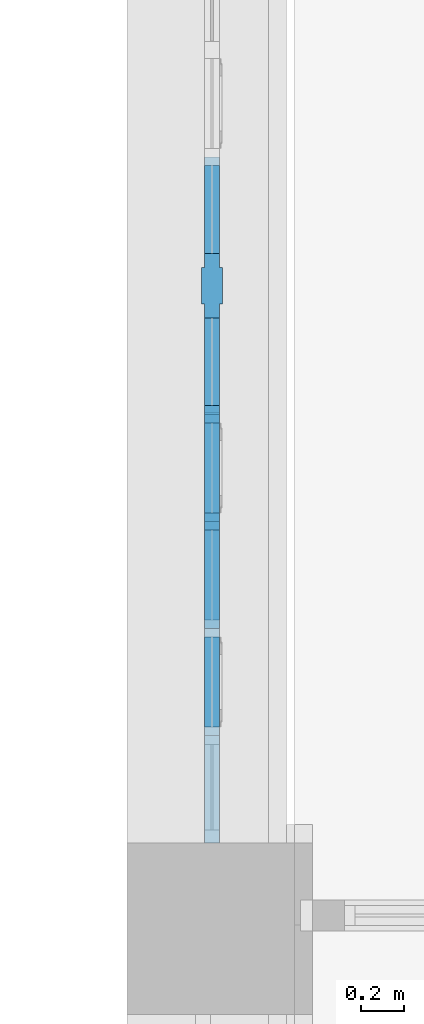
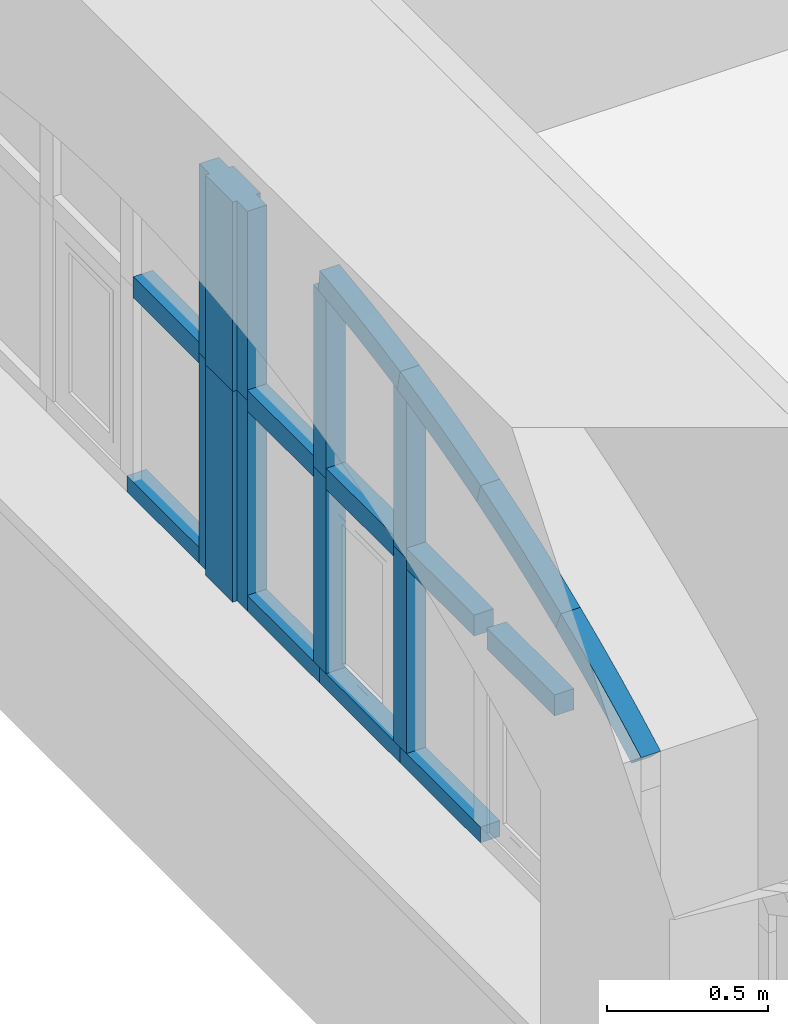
# One storey, part 18 of 32: 19 members, 1 element without a shape of its own.
"""IFC2X3 building model written with IfcOpenShell, lengths in millimetres."""

import ifcopenshell
import ifcopenshell.guid

model = None  # the IFC model being written
_history = None  # IfcOwnerHistory: only IFC2X3 demands one
_inside = {}  # id of a spatial element -> (the spatial element, [elements in it])
_under = {}  # id of a project, library or spatial element -> (it, [spatial elements below it])
_declared = {}  # id of a project -> (the project, [libraries it declares])
_typed = {}  # id of a type object -> (the type object, [elements of that type])
_made_of = {}  # id of a material, layer set ... -> (it, [elements and type objects made of it])


def new_model(schema):
    """Start an empty IFC model of exactly this schema.

    Asked for "IFC4X3", IfcOpenShell would pick the latest addendum, in which some entities
    have other attributes; the version numbers below select the first issue.
    IFC2X3 requires an IfcOwnerHistory on every rooted entity: one is made here for all.
    """
    global model, _history
    if schema == "IFC4X3":
        model = ifcopenshell.file(schema_version=(4, 3, 0, 0))
    else:
        model = ifcopenshell.file(schema=schema)
    _inside.clear()
    _under.clear()
    _declared.clear()
    _typed.clear()
    _made_of.clear()
    _history = None
    if model.schema == "IFC2X3":
        org = make("IfcOrganization", Name="unknown")
        user = make(
            "IfcPersonAndOrganization",
            ThePerson=make("IfcPerson", FamilyName="unknown"),
            TheOrganization=org,
        )
        app = make(
            "IfcApplication",
            ApplicationDeveloper=org,
            Version="unknown",
            ApplicationFullName="unknown",
            ApplicationIdentifier="unknown",
        )
        _history = make(
            "IfcOwnerHistory",
            OwningUser=user,
            OwningApplication=app,
            ChangeAction="ADDED",
            CreationDate=0,
        )
    return model


def make(cls, **values):
    """One entity of the class cls with the attributes given. An attribute that is None is left unset."""
    return model.create_entity(
        cls, **{name: value for name, value in values.items() if value is not None}
    )


def entity(cls, *values):
    """Any entity or typed value of the class cls, its attributes in the order of the schema. None: left unset."""
    e = model.create_entity(cls)
    for i, value in enumerate(values):
        if value is not None:
            e[i] = value
    return e


def rooted(cls, **values):
    """An entity with a GlobalId (a new one), such as an element, a storey or a relation."""
    return make(cls, GlobalId=ifcopenshell.guid.new(), OwnerHistory=_history, **values)


def si_unit(unit_type, name, prefix=None):
    """IfcSIUnit, for example si_unit("LENGTHUNIT", "METRE", prefix="MILLI")."""
    return make("IfcSIUnit", UnitType=unit_type, Prefix=prefix, Name=name)


def converted_unit(unit_type, name, factor, base, dimensions=None, offset=None):
    """IfcConversionBasedUnit, such as the inch: factor (a typed value) times the base unit."""
    return make(
        "IfcConversionBasedUnit"
        if offset is None
        else "IfcConversionBasedUnitWithOffset",
        ConversionOffset=offset,
        Dimensions=None
        if dimensions is None
        else entity("IfcDimensionalExponents", *dimensions),
        UnitType=unit_type,
        Name=name,
        ConversionFactor=make(
            "IfcMeasureWithUnit", ValueComponent=factor, UnitComponent=base
        ),
    )


def derived_unit(unit_type, elements):
    """IfcDerivedUnit: a product of units, each with its exponent."""
    return make(
        "IfcDerivedUnit",
        Elements=[
            make("IfcDerivedUnitElement", Unit=unit, Exponent=power)
            for unit, power in elements
        ],
        UnitType=unit_type,
    )


def assignment(units):
    """IfcUnitAssignment: the units of a project."""
    return None if units is None else make("IfcUnitAssignment", Units=units)


def point(xyz):
    """IfcCartesianPoint."""
    return None if xyz is None else make("IfcCartesianPoint", Coordinates=xyz)


def direction(xyz):
    """IfcDirection."""
    return None if xyz is None else make("IfcDirection", DirectionRatios=xyz)


def frame(location, z_axis=None, x_axis=None):
    """IfcAxis2Placement3D, a coordinate frame: its origin and axes. An axis left out is left unset."""
    return make(
        "IfcAxis2Placement3D",
        Location=point(location),
        Axis=direction(z_axis),
        RefDirection=direction(x_axis),
    )


def frame_2d(location, x_axis=None):
    """IfcAxis2Placement2D, a coordinate frame in the plane: its origin and x axis."""
    return make(
        "IfcAxis2Placement2D", Location=point(location), RefDirection=direction(x_axis)
    )


def origin():
    """The frame at (0, 0, 0) with its axes left unset."""
    return frame((0.0, 0.0, 0.0))


def place(relative_to, where):
    """IfcLocalPlacement: puts the frame where relative to a parent placement (None: the world)."""
    return make(
        "IfcLocalPlacement", PlacementRelTo=relative_to, RelativePlacement=where
    )


def context(
    kind, dimensions, precision=None, world=None, true_north=None, identifier=None
):
    """IfcGeometricRepresentationContext, for example the 3D "Model" context."""
    return make(
        "IfcGeometricRepresentationContext",
        ContextIdentifier=identifier,
        ContextType=kind,
        CoordinateSpaceDimension=dimensions,
        Precision=precision,
        WorldCoordinateSystem=world,
        TrueNorth=true_north,
    )


def subcontext(parent, identifier, kind, view, scale=None):
    """IfcGeometricRepresentationSubContext, for example "Body" below "Model"."""
    return make(
        "IfcGeometricRepresentationSubContext",
        ContextIdentifier=identifier,
        ContextType=kind,
        ParentContext=parent,
        TargetScale=scale,
        TargetView=view,
    )


def project(units=None, contexts=None):
    """IfcProject with its units and contexts."""
    return rooted(
        "IfcProject",
        Name="project",
        RepresentationContexts=contexts,
        UnitsInContext=assignment(units),
    )


def spatial(cls, under=None, at=None, **own):
    """A site, building, storey or space (cls), placed at a placement, below another one or the project."""
    s = rooted(cls, ObjectPlacement=at, **own)
    if under is not None:
        _under.setdefault(under.id(), (under, []))[1].append(s)
    return s


def polyline(points):
    """IfcPolyline through the points."""
    return make("IfcPolyline", Points=[point(p) for p in points])


def circle_curve(where, radius):
    """IfcCircle in the frame where."""
    return make("IfcCircle", Position=where, Radius=radius)


def parameter(value):
    """IfcParameterValue: where a trimmed curve begins or ends, as a parameter of its basis curve."""
    return model.create_entity("IfcParameterValue", value)


def trimmed(basis, trim1, trim2, sense, master):
    """IfcTrimmedCurve: the piece of a basis curve between two trims."""
    return make(
        "IfcTrimmedCurve",
        BasisCurve=basis,
        Trim1=trim1,
        Trim2=trim2,
        SenseAgreement=sense,
        MasterRepresentation=master,
    )


def segment(curve, same_sense, transition):
    """IfcCompositeCurveSegment."""
    return make(
        "IfcCompositeCurveSegment",
        Transition=transition,
        SameSense=same_sense,
        ParentCurve=curve,
    )


def composite_curve(segments, self_intersect=None):
    """IfcCompositeCurve: segments joined end to end."""
    return make("IfcCompositeCurve", Segments=segments, SelfIntersect=self_intersect)


def profile(cls, at=None, kind="AREA", **sizes):
    """A parametric profile (cls). Its sizes go by their IFC names, for example OverallWidth=200.0."""
    return make(cls, ProfileType=kind, Position=at, **sizes)


def rectangle(**sizes):
    """IfcRectangleProfileDef."""
    return profile("IfcRectangleProfileDef", **sizes)


def outline(outer, holes=None, kind="AREA"):
    """IfcArbitraryClosedProfileDef: a profile drawn as a closed curve; with holes, ...WithVoids."""
    if holes is None:
        return make("IfcArbitraryClosedProfileDef", ProfileType=kind, OuterCurve=outer)
    return make(
        "IfcArbitraryProfileDefWithVoids",
        ProfileType=kind,
        OuterCurve=outer,
        InnerCurves=holes,
    )


def extrude(swept, where, along, depth):
    """IfcExtrudedAreaSolid: the profile swept, set in the frame where, extruded along a direction by depth."""
    return make(
        "IfcExtrudedAreaSolid",
        SweptArea=swept,
        Position=where,
        ExtrudedDirection=direction(along),
        Depth=depth,
    )


def faces_of(points, faces, orient=None, outer=None):
    """IfcFace entities. A face is a list of loops; a loop is a list of indices into points, from 0.

    orient and outer hold one flag for each loop. By default every Orientation is true, the
    first loop of a face is its IfcFaceOuterBound and the others are IfcFaceBound.
    """
    made = []
    for i, loops in enumerate(faces):
        bounds = []
        for j, loop in enumerate(loops):
            is_outer = j == 0 if outer is None else outer[i][j]
            bounds.append(
                make(
                    "IfcFaceOuterBound" if is_outer else "IfcFaceBound",
                    Bound=make("IfcPolyLoop", Polygon=[points[k] for k in loop]),
                    Orientation=True if orient is None else orient[i][j],
                )
            )
        made.append(make("IfcFace", Bounds=bounds))
    return made


def faceted_brep(points, faces, orient=None, outer=None, voids=None):
    """IfcFacetedBrep: a solid bounded by flat faces; with voids (closed shells), ...WithVoids."""
    shared = [point(p) for p in points]
    hull = make("IfcClosedShell", CfsFaces=faces_of(shared, faces, orient, outer))
    if voids is None:
        return make("IfcFacetedBrep", Outer=hull)
    return make(
        "IfcFacetedBrepWithVoids",
        Outer=hull,
        Voids=[
            make(cls, CfsFaces=faces_of(shared, fs, o, b)) for cls, fs, o, b in voids
        ],
    )


def shape(context_of_items, identifier, shape_type, items):
    """IfcShapeRepresentation: the items that make up one representation, for example the "Body"."""
    return make(
        "IfcShapeRepresentation",
        ContextOfItems=context_of_items,
        RepresentationIdentifier=identifier,
        RepresentationType=shape_type,
        Items=items,
    )


def source(mapping_origin, context_of_items, identifier, shape_type, items):
    """IfcRepresentationMap: a shape defined once, which mapped items show again and again."""
    return make(
        "IfcRepresentationMap",
        MappingOrigin=mapping_origin,
        MappedRepresentation=shape(context_of_items, identifier, shape_type, items),
    )


def transform(
    local_origin,
    x_axis=None,
    y_axis=None,
    z_axis=None,
    scale=None,
    scale2=None,
    scale3=None,
    uniform=True,
):
    """IfcCartesianTransformationOperator3D, or its non-uniform kind. x_axis, y_axis, z_axis: its Axis1, 2, 3."""
    if uniform:
        return make(
            "IfcCartesianTransformationOperator3D",
            Axis1=direction(x_axis),
            Axis2=direction(y_axis),
            LocalOrigin=point(local_origin),
            Scale=scale,
            Axis3=direction(z_axis),
        )
    return make(
        "IfcCartesianTransformationOperator3DnonUniform",
        Axis1=direction(x_axis),
        Axis2=direction(y_axis),
        LocalOrigin=point(local_origin),
        Scale=scale,
        Axis3=direction(z_axis),
        Scale2=scale2,
        Scale3=scale3,
    )


def mapped(mapping_source, mapping_target):
    """IfcMappedItem: shows the shape of a source again, moved by a transform."""
    return make(
        "IfcMappedItem", MappingSource=mapping_source, MappingTarget=mapping_target
    )


def material(Name=None, Category=None):
    """IfcMaterial."""
    return make("IfcMaterial", Name=Name, Category=Category)


def made_of(thing, what):
    """Note that an element or type object is made of a material, layer set ...; save() writes the relation."""
    if what is not None:
        _made_of.setdefault(what.id(), (what, []))[1].append(thing)
    return thing


def type_object(cls, material=None, **own):
    """A type object (cls), such as IfcWallType, which elements share."""
    return made_of(rooted(cls, **own), material)


def type_shapes(of_type, sources):
    """Give a type object the sources (RepresentationMaps) that its elements show as mapped items."""
    of_type.RepresentationMaps = sources


def element(
    cls,
    number,
    at=None,
    inside=None,
    cuts=None,
    type_object=None,
    material=None,
    context=None,
    identifier="Body",
    shape_type=None,
    held_by="IfcProductDefinitionShape",
    body=None,
    shapes=None,
    **own,
):
    """One element of the class cls, such as IfcWall. Its Tag is "e" and its number.

    at: its placement. inside: the storey or other place that contains it. cuts: it is an
    opening in that element (IfcRelVoidsElement). A single representation is given by context,
    identifier, shape_type and body (its items); several are given by shapes. held_by: the class
    of the entity that holds the representations. save() writes the other relations.
    """
    e = rooted(cls, Tag="e%d" % number, ObjectPlacement=at, **own)
    if body is not None:
        shapes = [shape(context, identifier, shape_type, body)]
    if shapes is not None:
        e.Representation = make(held_by, Representations=shapes)
    if inside is not None:
        _inside.setdefault(inside.id(), (inside, []))[1].append(e)
    if cuts is not None:
        rooted(
            "IfcRelVoidsElement", RelatingBuildingElement=cuts, RelatedOpeningElement=e
        )
    if type_object is not None:
        _typed.setdefault(type_object.id(), (type_object, []))[1].append(e)
    return made_of(e, material)


def aggregate(whole, parts):
    """IfcRelAggregates: a whole, such as a stair, and the parts it consists of."""
    return rooted("IfcRelAggregates", RelatingObject=whole, RelatedObjects=parts)


def save(model, path):
    """Write the relations noted so far, then the file.

    IfcRelAggregates (storeys below a building ...), IfcRelContainedInSpatialStructure (elements
    in a storey), IfcRelDefinesByType, IfcRelAssociatesMaterial and IfcRelDeclares: one each for
    every whole, place, type object, material and project.
    """
    for whole, parts in _under.values():
        aggregate(whole, parts)
    for where, things in _inside.values():
        rooted(
            "IfcRelContainedInSpatialStructure",
            RelatedElements=things,
            RelatingStructure=where,
        )
    for kind, things in _typed.values():
        rooted("IfcRelDefinesByType", RelatedObjects=things, RelatingType=kind)
    for what, things in _made_of.values():
        rooted("IfcRelAssociatesMaterial", RelatedObjects=things, RelatingMaterial=what)
    for by, libraries in _declared.values():
        rooted("IfcRelDeclares", RelatingContext=by, RelatedDefinitions=libraries)
    model.write(path)


model = new_model("IFC2X3")

# Units and contexts
model_context = context("Model", 3, precision=0.01, world=origin(), true_north=direction((6.123031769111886e-17, 1.0)))
body_context = subcontext(model_context, "Body", "Model", "MODEL_VIEW")
ifc_project = project(units=[si_unit("LENGTHUNIT", "METRE", prefix="MILLI"), si_unit("AREAUNIT", "SQUARE_METRE"), si_unit("VOLUMEUNIT", "CUBIC_METRE"), converted_unit("PLANEANGLEUNIT", "DEGREE", entity("IfcPlaneAngleMeasure", 0.017453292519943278), si_unit("PLANEANGLEUNIT", "RADIAN"), dimensions=[0, 0, 0, 0, 0, 0, 0]), si_unit("MASSUNIT", "GRAM", prefix="KILO"), derived_unit("MASSDENSITYUNIT", [(si_unit("MASSUNIT", "GRAM", prefix="KILO"), 1), (si_unit("LENGTHUNIT", "METRE"), -3)]), derived_unit("IONCONCENTRATIONUNIT", [(si_unit("MASSUNIT", "GRAM", prefix="KILO"), 1), (si_unit("LENGTHUNIT", "METRE"), -3)]), derived_unit("MOMENTOFINERTIAUNIT", [(si_unit("LENGTHUNIT", "METRE"), 4)]), si_unit("TIMEUNIT", "SECOND"), si_unit("FREQUENCYUNIT", "HERTZ"), si_unit("THERMODYNAMICTEMPERATUREUNIT", "DEGREE_CELSIUS"), derived_unit("THERMALTRANSMITTANCEUNIT", [(si_unit("MASSUNIT", "GRAM", prefix="KILO"), 1), (si_unit("THERMODYNAMICTEMPERATUREUNIT", "KELVIN"), -1), (si_unit("TIMEUNIT", "SECOND"), -3)]), derived_unit("THERMALCONDUCTANCEUNIT", [(si_unit("MASSUNIT", "GRAM", prefix="KILO"), 1), (si_unit("THERMODYNAMICTEMPERATUREUNIT", "KELVIN"), -1), (si_unit("TIMEUNIT", "SECOND"), -3), (si_unit("LENGTHUNIT", "METRE"), 1)]), derived_unit("VOLUMETRICFLOWRATEUNIT", [(si_unit("LENGTHUNIT", "METRE", prefix="DECI"), 3), (si_unit("TIMEUNIT", "SECOND"), -1)]), derived_unit("MASSFLOWRATEUNIT", [(si_unit("MASSUNIT", "GRAM", prefix="KILO"), 1), (si_unit("TIMEUNIT", "SECOND"), -1)]), derived_unit("ROTATIONALFREQUENCYUNIT", [(si_unit("TIMEUNIT", "SECOND"), -1)]), si_unit("ELECTRICCURRENTUNIT", "AMPERE"), si_unit("ELECTRICVOLTAGEUNIT", "VOLT"), si_unit("POWERUNIT", "WATT"), si_unit("FORCEUNIT", "NEWTON", prefix="KILO"), si_unit("ILLUMINANCEUNIT", "LUX"), si_unit("LUMINOUSFLUXUNIT", "LUMEN"), si_unit("LUMINOUSINTENSITYUNIT", "CANDELA"), si_unit("ENERGYUNIT", "JOULE"), derived_unit("USERDEFINED", [(si_unit("MASSUNIT", "GRAM", prefix="KILO"), -1), (si_unit("LENGTHUNIT", "METRE"), -2), (si_unit("TIMEUNIT", "SECOND"), 3), (si_unit("LUMINOUSFLUXUNIT", "LUMEN"), 1)]), derived_unit("USERDEFINED", [(si_unit("MASSUNIT", "GRAM", prefix="KILO"), 1), (si_unit("TIMEUNIT", "SECOND"), -3), (si_unit("LENGTHUNIT", "METRE"), 3), (si_unit("ELECTRICCURRENTUNIT", "AMPERE"), -2)]), derived_unit("SOUNDPOWERUNIT", [(si_unit("MASSUNIT", "GRAM", prefix="KILO"), 1), (si_unit("TIMEUNIT", "SECOND"), -3), (si_unit("LENGTHUNIT", "METRE"), 2)]), derived_unit("SOUNDPRESSUREUNIT", [(si_unit("MASSUNIT", "GRAM", prefix="KILO"), 1), (si_unit("LENGTHUNIT", "METRE"), -1), (si_unit("TIMEUNIT", "SECOND"), -2)]), derived_unit("LINEARVELOCITYUNIT", [(si_unit("LENGTHUNIT", "METRE"), 1), (si_unit("TIMEUNIT", "SECOND"), -1)]), si_unit("PRESSUREUNIT", "PASCAL"), derived_unit("USERDEFINED", [(si_unit("MASSUNIT", "GRAM", prefix="KILO"), 1), (si_unit("LENGTHUNIT", "METRE"), -2), (si_unit("TIMEUNIT", "SECOND"), -2)]), derived_unit("LINEARFORCEUNIT", [(si_unit("MASSUNIT", "GRAM", prefix="KILO"), 1), (si_unit("TIMEUNIT", "SECOND"), -2)]), derived_unit("PLANARFORCEUNIT", [(si_unit("MASSUNIT", "GRAM", prefix="KILO"), 1), (si_unit("LENGTHUNIT", "METRE"), -1), (si_unit("TIMEUNIT", "SECOND"), -2)]), derived_unit("SPECIFICHEATCAPACITYUNIT", [(si_unit("THERMODYNAMICTEMPERATUREUNIT", "KELVIN"), -1), (si_unit("LENGTHUNIT", "METRE"), 2), (si_unit("TIMEUNIT", "SECOND"), -2)]), derived_unit("HEATFLUXDENSITYUNIT", [(si_unit("MASSUNIT", "GRAM", prefix="KILO"), 1), (si_unit("TIMEUNIT", "SECOND"), -3)]), derived_unit("HEATINGVALUEUNIT", [(si_unit("LENGTHUNIT", "METRE"), 2), (si_unit("TIMEUNIT", "SECOND"), -2)]), derived_unit("VAPORPERMEABILITYUNIT", [(si_unit("LENGTHUNIT", "METRE"), -1), (si_unit("TIMEUNIT", "SECOND"), 1)]), derived_unit("DYNAMICVISCOSITYUNIT", [(si_unit("MASSUNIT", "GRAM", prefix="KILO"), 1), (si_unit("TIMEUNIT", "SECOND"), -1), (si_unit("LENGTHUNIT", "METRE"), -1)]), derived_unit("THERMALEXPANSIONCOEFFICIENTUNIT", [(si_unit("THERMODYNAMICTEMPERATUREUNIT", "KELVIN"), -1)]), derived_unit("MODULUSOFELASTICITYUNIT", [(si_unit("MASSUNIT", "GRAM", prefix="KILO"), 1), (si_unit("LENGTHUNIT", "METRE"), -1), (si_unit("TIMEUNIT", "SECOND"), -2)]), derived_unit("ISOTHERMALMOISTURECAPACITYUNIT", [(si_unit("MASSUNIT", "GRAM", prefix="KILO"), -1), (si_unit("LENGTHUNIT", "METRE"), 3)]), derived_unit("MOISTUREDIFFUSIVITYUNIT", [(si_unit("TIMEUNIT", "SECOND"), -1), (si_unit("LENGTHUNIT", "METRE"), 2)]), derived_unit("MASSPERLENGTHUNIT", [(si_unit("MASSUNIT", "GRAM", prefix="KILO"), 1), (si_unit("LENGTHUNIT", "METRE"), -1)]), derived_unit("THERMALRESISTANCEUNIT", [(si_unit("MASSUNIT", "GRAM", prefix="KILO"), -1), (si_unit("TIMEUNIT", "SECOND"), 3), (si_unit("THERMODYNAMICTEMPERATUREUNIT", "KELVIN"), 1)]), derived_unit("ACCELERATIONUNIT", [(si_unit("LENGTHUNIT", "METRE"), 1), (si_unit("TIMEUNIT", "SECOND"), -2)]), derived_unit("ANGULARVELOCITYUNIT", [(si_unit("TIMEUNIT", "SECOND"), -1), (si_unit("PLANEANGLEUNIT", "RADIAN"), 1)]), derived_unit("LINEARSTIFFNESSUNIT", [(si_unit("MASSUNIT", "GRAM", prefix="KILO"), 1), (si_unit("TIMEUNIT", "SECOND"), -2)]), derived_unit("WARPINGCONSTANTUNIT", [(si_unit("LENGTHUNIT", "METRE"), 6)]), derived_unit("LINEARMOMENTUNIT", [(si_unit("MASSUNIT", "GRAM", prefix="KILO"), 1), (si_unit("LENGTHUNIT", "METRE"), 1), (si_unit("TIMEUNIT", "SECOND"), -2)]), derived_unit("TORQUEUNIT", [(si_unit("MASSUNIT", "GRAM", prefix="KILO"), 1), (si_unit("LENGTHUNIT", "METRE"), 2), (si_unit("TIMEUNIT", "SECOND"), -2)])], contexts=[model_context])

# Site, building, storey
site_placement = place(None, origin())
site = spatial("IfcSite", under=ifc_project, at=site_placement, Name="Default", CompositionType="ELEMENT")
building_placement = place(site_placement, origin())
building = spatial("IfcBuilding", under=site, at=building_placement, Name="Eesti Rahvusraamatukogu hoone renoveerimise projekteerimistööd", CompositionType="ELEMENT")
storey_placement = place(building_placement, frame((0.0, 0.0, 4950.000000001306)))
storey = spatial("IfcBuildingStorey", under=building, at=storey_placement, Name="2. korrus", CompositionType="ELEMENT", Elevation=4950.000000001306)

# Curtain wall, members
curtain_wall_type = type_object("IfcCurtainWallType", Name="Curtain Wall:Ak-04", PredefinedType="NOTDEFINED")
curtain_wall_placement = place(storey_placement, frame((0.0, 0.0, -4950.000000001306)))
curtain_wall = element("IfcCurtainWall", 1, at=curtain_wall_placement, inside=storey, type_object=curtain_wall_type, Name="Curtain Wall:Ak-04", ObjectType="Curtain Wall:Ak-04")
ifc_material = material(Name="LUMION_dark steel window frames")
member_type_1 = type_object("IfcMemberType", Name="Rectangular Mullion:NEW 80x70mm", PredefinedType="MULLION", material=ifc_material)
shared_shape_1 = source(origin(), body_context, "Body", "SweptSolid", [
    extrude(rectangle(XDim=80.0, YDim=70.0, at=frame_2d((0.0, -3.552713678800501e-15), x_axis=(1.0, 0.0))), frame((0.0, 0.0, -420.0), z_axis=(0.0, 0.0, 1.0), x_axis=(-1.0, 0.0, 0.0)), (0.0, 0.0, 1.0), 419.999999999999),
])
type_shapes(member_type_1, [shared_shape_1])
member_1_placement = place(curtain_wall_placement, frame((-36383.999999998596, 44299.00000000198, 6550.000000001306), z_axis=(0.0, -1.0, 0.0), x_axis=(0.0, 0.0, 1.0)))
member_1 = element("IfcMember", 2, at=member_1_placement, type_object=member_type_1, material=ifc_material, Name="Rectangular Mullion:NEW 80x70mm", ObjectType="Rectangular Mullion:NEW 80x70mm", context=body_context, shape_type="MappedRepresentation", body=[
    mapped(shared_shape_1, transform((0.0, 0.0, 0.0), scale=1.0)),
])
member_2_placement = place(curtain_wall_placement, frame((-36383.9999999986, 43799.00000000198, 6550.000000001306), z_axis=(0.0, -1.0, 0.0), x_axis=(0.0, 0.0, 1.0)))
member_2 = element("IfcMember", 3, at=member_2_placement, type_object=member_type_1, material=ifc_material, Name="Rectangular Mullion:NEW 80x70mm", ObjectType="Rectangular Mullion:NEW 80x70mm", context=body_context, shape_type="MappedRepresentation", body=[
    mapped(shared_shape_1, transform((0.0, 0.0, 0.0), scale=1.0)),
])
member_3_placement = place(curtain_wall_placement, frame((-36383.9999999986, 43299.00000000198, 6550.000000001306), z_axis=(0.0, -1.0, 0.0), x_axis=(0.0, 0.0, 1.0)))
member_3 = element("IfcMember", 4, at=member_3_placement, type_object=member_type_1, material=ifc_material, Name="Rectangular Mullion:NEW 80x70mm", ObjectType="Rectangular Mullion:NEW 80x70mm", context=body_context, shape_type="MappedRepresentation", body=[
    mapped(shared_shape_1, transform((0.0, 0.0, 0.0), scale=1.0)),
])
member_type_2 = type_object("IfcMemberType", Name="Rectangular Mullion:NEW 80x70mm", PredefinedType="MULLION", material=ifc_material)
shared_shape_2 = source(origin(), body_context, "Body", "SweptSolid", [
    extrude(rectangle(XDim=80.0, YDim=70.0, at=frame_2d((0.0, -3.552713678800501e-15), x_axis=(1.0, 0.0))), frame((0.0, 0.0, -410.0), z_axis=(0.0, 0.0, 1.0), x_axis=(-1.0, 0.0, 0.0)), (0.0, 0.0, 1.0), 409.9999999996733),
])
type_shapes(member_type_2, [shared_shape_2])
member_4_placement = place(curtain_wall_placement, frame((-36383.999999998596, 45509.00000000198, 6550.000000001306), z_axis=(0.0, -1.0, 0.0), x_axis=(0.0, 0.0, 1.0)))
member_4 = element("IfcMember", 5, at=member_4_placement, type_object=member_type_2, material=ifc_material, Name="Rectangular Mullion:NEW 80x70mm", ObjectType="Rectangular Mullion:NEW 80x70mm", context=body_context, shape_type="MappedRepresentation", body=[
    mapped(shared_shape_2, transform((0.0, 0.0, 0.0), scale=1.0)),
])
member_5_placement = place(curtain_wall_placement, frame((-36383.999999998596, 44799.00000000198, 6550.000000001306), z_axis=(0.0, -1.0, 0.0), x_axis=(0.0, 0.0, 1.0)))
member_5 = element("IfcMember", 6, at=member_5_placement, type_object=member_type_2, material=ifc_material, Name="Rectangular Mullion:NEW 80x70mm", ObjectType="Rectangular Mullion:NEW 80x70mm", context=body_context, shape_type="MappedRepresentation", body=[
    mapped(shared_shape_2, transform((0.0, 0.0, 0.0), scale=1.0)),
])
member_type_3 = type_object("IfcMemberType", Name="Rectangular Mullion:NEW 60x70mm", PredefinedType="MULLION", material=ifc_material)
shared_shape_3 = source(origin(), body_context, "Body", "SweptSolid", [
    extrude(rectangle(XDim=60.0, YDim=70.0, at=frame_2d((0.0, 3.552713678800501e-15), x_axis=(1.0, 0.0))), frame((-30.0, 0.0, -500.0), z_axis=(0.0, 0.0, 1.0), x_axis=(-1.0, 0.0, 0.0)), (0.0, 0.0, 1.0), 499.999999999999),
])
type_shapes(member_type_3, [shared_shape_3])
member_6_placement = place(curtain_wall_placement, frame((-36383.999999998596, 44759.00000000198, 5750.000000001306), z_axis=(0.0, 1.0, 0.0), x_axis=(0.0, 0.0, -1.0)))
member_6 = element("IfcMember", 7, at=member_6_placement, type_object=member_type_3, material=ifc_material, Name="Rectangular Mullion:NEW 60x70mm", ObjectType="Rectangular Mullion:NEW 60x70mm", context=body_context, shape_type="MappedRepresentation", body=[
    mapped(shared_shape_3, transform((0.0, 0.0, 0.0), scale=1.0)),
])
member_7_placement = place(curtain_wall_placement, frame((-36383.999999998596, 44259.00000000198, 5750.000000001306), z_axis=(0.0, 1.0, 0.0), x_axis=(0.0, 0.0, -1.0)))
member_7 = element("IfcMember", 8, at=member_7_placement, type_object=member_type_3, material=ifc_material, Name="Rectangular Mullion:NEW 60x70mm", ObjectType="Rectangular Mullion:NEW 60x70mm", context=body_context, shape_type="MappedRepresentation", body=[
    mapped(shared_shape_3, transform((0.0, 0.0, 0.0), scale=1.0)),
])
member_type_4 = type_object("IfcMemberType", Name="Rectangular Mullion:NEW 60x70mm", PredefinedType="MULLION", material=ifc_material)
shared_shape_4 = source(origin(), body_context, "Body", "SweptSolid", [
    extrude(rectangle(XDim=60.0, YDim=70.0, at=frame_2d((0.0, 3.552713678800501e-15), x_axis=(1.0, 0.0))), frame((-30.0, 0.0, -450.0), z_axis=(0.0, 0.0, 1.0), x_axis=(-1.0, 0.0, 0.0)), (0.0, 0.0, 1.0), 449.99999999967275),
])
type_shapes(member_type_4, [shared_shape_4])
member_8_placement = place(curtain_wall_placement, frame((-36383.999999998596, 45959.000000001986, 5750.000000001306), z_axis=(0.0, 1.0, 0.0), x_axis=(0.0, 0.0, -1.0)))
member_8 = element("IfcMember", 9, at=member_8_placement, type_object=member_type_4, material=ifc_material, Name="Rectangular Mullion:NEW 60x70mm", ObjectType="Rectangular Mullion:NEW 60x70mm", context=body_context, shape_type="MappedRepresentation", body=[
    mapped(shared_shape_4, transform((0.0, 0.0, 0.0), scale=1.0)),
])
member_type_5 = type_object("IfcMemberType", Name="Rectangular Mullion:NEW 60x70mm", PredefinedType="MULLION", material=ifc_material)
shared_shape_5 = source(origin(), body_context, "Body", "SweptSolid", [
    extrude(rectangle(XDim=60.0, YDim=70.0, at=frame_2d((0.0, 3.552713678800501e-15), x_axis=(1.0, 0.0))), frame((-30.0, 0.0, -450.0), z_axis=(0.0, 0.0, 1.0), x_axis=(-1.0, 0.0, 0.0)), (0.0, 0.0, 1.0), 449.9999999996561),
])
type_shapes(member_type_5, [shared_shape_5])
member_9_placement = place(curtain_wall_placement, frame((-36383.999999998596, 45209.00000000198, 5750.000000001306), z_axis=(0.0, 1.0, 0.0), x_axis=(0.0, 0.0, -1.0)))
member_9 = element("IfcMember", 10, at=member_9_placement, type_object=member_type_5, material=ifc_material, Name="Rectangular Mullion:NEW 60x70mm", ObjectType="Rectangular Mullion:NEW 60x70mm", context=body_context, shape_type="MappedRepresentation", body=[
    mapped(shared_shape_5, transform((0.0, 0.0, 0.0), scale=1.0)),
])
member_type_6 = type_object("IfcMemberType", Name="Rectangular Mullion:NEW 80x70mm", PredefinedType="MULLION", material=ifc_material)
shared_shape_6 = source(origin(), body_context, "Body", "SweptSolid", [
    extrude(rectangle(XDim=80.0, YDim=70.0, at=frame_2d((0.0, -3.552713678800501e-15), x_axis=(1.0, 0.0))), frame((0.0, 0.0, -740.0), z_axis=(0.0, 0.0, 1.0), x_axis=(-1.0, 0.0, 0.0)), (0.0, 0.0, 1.0), 740.0),
])
type_shapes(member_type_6, [shared_shape_6])
member_10_placement = place(curtain_wall_placement, frame((-36383.999999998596, 44259.00000000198, 5810.000000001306), z_axis=(0.0, 0.0, -1.0), x_axis=(0.0, -1.0, 0.0)))
member_10 = element("IfcMember", 11, at=member_10_placement, type_object=member_type_6, material=ifc_material, Name="Rectangular Mullion:NEW 80x70mm", ObjectType="Rectangular Mullion:NEW 80x70mm", context=body_context, shape_type="MappedRepresentation", body=[
    mapped(shared_shape_6, transform((0.0, 0.0, 0.0), scale=1.0)),
])
member_11_placement = place(curtain_wall_placement, frame((-36383.999999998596, 44759.00000000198, 5810.000000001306), z_axis=(0.0, 0.0, -1.0), x_axis=(0.0, -1.0, 0.0)))
member_11 = element("IfcMember", 12, at=member_11_placement, type_object=member_type_6, material=ifc_material, Name="Rectangular Mullion:NEW 80x70mm", ObjectType="Rectangular Mullion:NEW 80x70mm", context=body_context, shape_type="MappedRepresentation", body=[
    mapped(shared_shape_6, transform((0.0, 0.0, 0.0), scale=1.0)),
])
member_type_7 = type_object("IfcMemberType", Name="Rectangular Mullion:NEW 80x70mm", PredefinedType="MULLION", material=ifc_material)
shared_shape_7 = source(origin(), body_context, "Body", "SweptSolid", [
    extrude(outline(composite_curve([segment(polyline([(-363.37678895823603, -43.27151160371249), (232.56220317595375, -43.27151160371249)]), True, "CONTINUOUS"), segment(trimmed(circle_curve(frame_2d((-4943.152908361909, 1096.728488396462), x_axis=(0.9547498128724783, -0.29741014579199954)), 5299.776119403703), [parameter(4.880521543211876)], [parameter(5.5036722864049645)], True, "PARAMETER"), True, "CONTINUOUS"), segment(trimmed(circle_curve(frame_2d((-4943.152908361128, 1096.72848839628), x_axis=(0.9788729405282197, -0.20446947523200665)), 5299.7761194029), [parameter(0.0)], [parameter(0.2609913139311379)], True, "PARAMETER"), True, "CONTINUOUS"), segment(polyline([(249.536848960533, 36.728488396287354), (-363.37678895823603, 36.72848839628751)]), True, "CONTINUOUS"), segment(polyline([(-363.37678895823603, 36.72848839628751), (-363.37678895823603, -43.27151160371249)]), True, "CONTINUOUS")], self_intersect=False)), frame((-3.271511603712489, -35.0, -363.37678895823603), z_axis=(0.0, 1.0, 0.0), x_axis=(0.0, 0.0, -1.0)), (0.0, 0.0, 1.0), 70.00000000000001),
])
type_shapes(member_type_7, [shared_shape_7])
member_12_placement = place(curtain_wall_placement, frame((-36383.999999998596, 44259.00000000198, 6550.000000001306), z_axis=(0.0, 0.0, -1.0), x_axis=(0.0, -1.0, 0.0)))
member_12 = element("IfcMember", 13, at=member_12_placement, type_object=member_type_7, material=ifc_material, Name="Rectangular Mullion:NEW 80x70mm", ObjectType="Rectangular Mullion:NEW 80x70mm", context=body_context, shape_type="MappedRepresentation", body=[
    mapped(shared_shape_7, transform((0.0, 0.0, 0.0), scale=1.0)),
])
member_type_8 = type_object("IfcMemberType", Name="Rectangular Mullion:NEW 80x70mm", PredefinedType="MULLION", material=ifc_material)
shared_shape_8 = source(origin(), body_context, "Body", "SweptSolid", [
    extrude(outline(composite_curve([segment(polyline([(-411.69630029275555, -41.78446087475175), (269.51863863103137, -41.78446087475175)]), True, "CONTINUOUS"), segment(trimmed(circle_curve(frame_2d((-4991.472419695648, 598.2155391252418), x_axis=(0.9788729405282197, -0.20446947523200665)), 5299.7761194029), [parameter(4.862488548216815)], [parameter(5.39499243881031)], True, "PARAMETER"), True, "CONTINUOUS"), segment(trimmed(circle_curve(frame_2d((-4991.472419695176, 598.2155391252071), x_axis=(0.9937612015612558, -0.11152880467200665)), 5299.776119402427), [parameter(0.0)], [parameter(0.3379797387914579)], True, "PARAMETER"), True, "CONTINUOUS"), segment(polyline([(278.63449722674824, 38.21553912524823), (-411.69630029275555, 38.21553912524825)]), True, "CONTINUOUS"), segment(polyline([(-411.69630029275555, 38.21553912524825), (-411.69630029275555, -41.78446087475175)]), True, "CONTINUOUS")], self_intersect=False)), frame((-1.7844608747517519, -35.0, -411.69630029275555), z_axis=(0.0, 1.0, 0.0), x_axis=(0.0, 0.0, -1.0)), (0.0, 0.0, 1.0), 69.99999999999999),
])
type_shapes(member_type_8, [shared_shape_8])
member_13_placement = place(curtain_wall_placement, frame((-36383.999999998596, 44759.00000000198, 6550.000000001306), z_axis=(0.0, 0.0, -1.0), x_axis=(0.0, -1.0, 0.0)))
member_13 = element("IfcMember", 14, at=member_13_placement, type_object=member_type_8, material=ifc_material, Name="Rectangular Mullion:NEW 80x70mm", ObjectType="Rectangular Mullion:NEW 80x70mm", context=body_context, shape_type="MappedRepresentation", body=[
    mapped(shared_shape_8, transform((0.0, 0.0, 0.0), scale=1.0)),
])
member_type_9 = type_object("IfcMemberType", Name="Rectangular Mullion:NEW 80x70mm", PredefinedType="MULLION", material=ifc_material)
shared_shape_9 = source(origin(), body_context, "Body", "SweptSolid", [
    extrude(outline(composite_curve([segment(polyline([(-51.82710825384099, -251.02635265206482), (28.172891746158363, -251.02635265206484)]), True, "CONTINUOUS"), segment(trimmed(circle_curve(frame_2d((5327.949011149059, -251.02635265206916), x_axis=(-0.995570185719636, 0.09402130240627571)), 5299.7761194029), [parameter(3.5622212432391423e-13)], [parameter(5.39499243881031)], True, "PARAMETER"), False, "CONTINUOUS"), segment(polyline([(51.64991568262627, 247.26550055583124), (-27.995699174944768, 254.78720474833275)]), True, "CONTINUOUS"), segment(trimmed(circle_curve(frame_2d((5327.949011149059, -251.02635265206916), x_axis=(-0.995570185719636, 0.09402130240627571)), 5379.7761194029), [parameter(3.5622212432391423e-13)], [parameter(5.39499243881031)], True, "PARAMETER"), True, "CONTINUOUS")], self_intersect=False)), frame((-51.827108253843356, -35.0, -251.02635265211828), z_axis=(0.0, 1.0, 0.0), x_axis=(-0.9955701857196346, 0.0, 0.09402130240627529)), (0.0, 0.0, 1.0), 70.00000000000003),
])
type_shapes(member_type_9, [shared_shape_9])
member_14_placement = place(curtain_wall_placement, frame((-36383.999999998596, 44259.00000000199, 7236.341149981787), z_axis=(0.0, -0.9788729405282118, -0.2044694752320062), x_axis=(0.0, -0.2044694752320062, 0.9788729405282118)))
member_14 = element("IfcMember", 15, at=member_14_placement, type_object=member_type_9, material=ifc_material, Name="Rectangular Mullion:NEW 80x70mm", ObjectType="Rectangular Mullion:NEW 80x70mm", context=body_context, shape_type="MappedRepresentation", body=[
    mapped(shared_shape_9, transform((0.0, 0.0, 0.0), scale=1.0)),
])
member_type_10 = type_object("IfcMemberType", Name="Rectangular Mullion:NEW 80x70mm", PredefinedType="MULLION", material=ifc_material)
shared_shape_10 = source(origin(), body_context, "Body", "SweptSolid", [
    extrude(outline(composite_curve([segment(polyline([(-52.30804182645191, -256.0677643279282), (27.691958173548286, -256.0677643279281)]), True, "CONTINUOUS"), segment(trimmed(circle_curve(frame_2d((5327.46807757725, -256.0677643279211), x_axis=(-0.9953900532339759, 0.09590955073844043)), 5299.776119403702), [parameter(3.5622212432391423e-13)], [parameter(5.5036722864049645)], True, "PARAMETER"), False, "CONTINUOUS"), segment(polyline([(52.12364395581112, 252.2313822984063), (-27.507560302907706, 259.9041463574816)]), True, "CONTINUOUS"), segment(trimmed(circle_curve(frame_2d((5327.46807757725, -256.0677643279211), x_axis=(-0.9953900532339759, 0.09590955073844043)), 5379.776119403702), [parameter(3.5622212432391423e-13)], [parameter(5.5036722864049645)], True, "PARAMETER"), True, "CONTINUOUS")], self_intersect=False)), frame((-52.30804182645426, -35.0, -256.06776432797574), z_axis=(0.0, 1.0, 0.0), x_axis=(-0.9953900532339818, 0.0, 0.09590955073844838)), (0.0, 0.0, 1.0), 69.99999999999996),
])
type_shapes(member_type_10, [shared_shape_10])
member_15_placement = place(curtain_wall_placement, frame((-36383.9999999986, 43759.000000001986, 7106.564123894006), z_axis=(0.0, -0.9547498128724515, -0.29741014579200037), x_axis=(0.0, -0.29741014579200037, 0.9547498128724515)))
member_15 = element("IfcMember", 16, at=member_15_placement, type_object=member_type_10, material=ifc_material, Name="Rectangular Mullion:NEW 80x70mm", ObjectType="Rectangular Mullion:NEW 80x70mm", context=body_context, shape_type="MappedRepresentation", body=[
    mapped(shared_shape_10, transform((0.0, 0.0, 0.0), scale=1.0)),
])
member_type_11 = type_object("IfcMemberType", Name="Rectangular Mullion:NEW 80x70mm", PredefinedType="MULLION", material=ifc_material)
shared_shape_11 = source(origin(), body_context, "Body", "SweptSolid", [
    extrude(outline(composite_curve([segment(polyline([(-53.081999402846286, -263.9769105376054), (26.918000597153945, -263.9769105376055)]), True, "CONTINUOUS"), segment(trimmed(circle_curve(frame_2d((5326.694120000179, -263.97691053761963), x_axis=(-0.9951001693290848, 0.09887190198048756)), 5299.776119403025), [parameter(3.5622212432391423e-13)], [parameter(5.674213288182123)], True, "PARAMETER"), False, "CONTINUOUS"), segment(polyline([(52.886006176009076, 260.0220344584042), (-26.722007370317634, 267.9317866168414)]), True, "CONTINUOUS"), segment(trimmed(circle_curve(frame_2d((5326.694120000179, -263.97691053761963), x_axis=(-0.9951001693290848, 0.09887190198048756)), 5379.776119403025), [parameter(3.5622212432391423e-13)], [parameter(5.674213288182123)], True, "PARAMETER"), True, "CONTINUOUS")], self_intersect=False)), frame((-53.0819994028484, -35.0, -263.97691053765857), z_axis=(0.0, 1.0, 0.0), x_axis=(-0.9951001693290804, 0.0, 0.09887190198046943)), (0.0, 0.0, 1.0), 69.99999999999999),
])
type_shapes(member_type_11, [shared_shape_11])
member_16_placement = place(curtain_wall_placement, frame((-36383.9999999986, 43259.000000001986, 6923.201883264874), z_axis=(0.0, -0.9206661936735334, -0.39035081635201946), x_axis=(0.0, -0.39035081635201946, 0.9206661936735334)))
member_16 = element("IfcMember", 17, at=member_16_placement, type_object=member_type_11, material=ifc_material, Name="Rectangular Mullion:NEW 80x70mm", ObjectType="Rectangular Mullion:NEW 80x70mm", context=body_context, shape_type="MappedRepresentation", body=[
    mapped(shared_shape_11, transform((0.0, 0.0, 0.0), scale=1.0)),
])
member_type_12 = type_object("IfcMemberType", Name="Rectangular Mullion:NEW 80x70mm", PredefinedType="MULLION", material=ifc_material)
shared_shape_12 = source(origin(), body_context, "Body", "SweptSolid", [
    extrude(outline(composite_curve([segment(polyline([(-53.643988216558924, -269.50314648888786), (26.35601178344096, -269.503146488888)]), True, "CONTINUOUS"), segment(trimmed(circle_curve(frame_2d((5326.132131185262, -269.5031464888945), x_axis=(-0.9946591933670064, 0.10321380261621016)), 5299.77611940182), [parameter(0.263670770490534)], [parameter(5.924265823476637)], True, "PARAMETER"), False, "CONTINUOUS"), segment(polyline([(52.19962066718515, 253.24228895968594), (-24.911644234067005, 285.7640040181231)]), True, "CONTINUOUS"), segment(trimmed(circle_curve(frame_2d((5326.132131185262, -269.5031464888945), x_axis=(-0.9946591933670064, 0.10321380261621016)), 5379.77611940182), [parameter(3.5622212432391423e-13)], [parameter(5.924265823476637)], True, "PARAMETER"), True, "CONTINUOUS")], self_intersect=False)), frame((-54.273385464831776, -35.0, -281.6665681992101), z_axis=(0.0, 1.0, 0.0), x_axis=(-0.9946591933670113, 0.0, 0.1032138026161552)), (0.0, 0.0, 1.0), 69.99999999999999),
])
type_shapes(member_type_12, [shared_shape_12])
member_17_placement = place(curtain_wall_placement, frame((-36383.9999999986, 42759.00000000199, 6680.000000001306), z_axis=(0.0, -0.8754595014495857, -0.48329148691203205), x_axis=(0.0, -0.48329148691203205, 0.8754595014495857)))
member_17 = element("IfcMember", 18, at=member_17_placement, type_object=member_type_12, material=ifc_material, Name="Rectangular Mullion:NEW 80x70mm", ObjectType="Rectangular Mullion:NEW 80x70mm", context=body_context, shape_type="MappedRepresentation", body=[
    mapped(shared_shape_12, transform((0.0, 0.0, 0.0), scale=1.0)),
])
member_type_13 = type_object("IfcMemberType", Name="Rectangular Mullion:NEW 300x100mm", PredefinedType="MULLION", material=ifc_material)
shared_shape_13 = source(origin(), body_context, "Body", "Brep", [
    faceted_brep([(-85.0, -50.0, 0.0), (85.0, -50.0, 0.0), (85.0, -35.0, 0.0), (150.0, -35.0, 0.0), (150.0, 35.0, 0.0), (85.0, 35.0, 0.0), (85.0, 50.0, 0.0), (-85.0, 50.0, 0.0), (-85.0, 35.0, 0.0), (-150.0, 35.0, 0.0), (-150.0, -35.0, 0.0), (-85.0, -35.0, 0.0), (-85.0, 35.0, -719.3183235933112), (-117.50221047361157, 35.0, -718.6972594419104), (-150.0, 35.0, -717.8768435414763), (150.0, 35.0, -717.8768435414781), (117.50221047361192, 35.0, -718.6972594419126), (85.0, 35.0, -719.3183235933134), (-150.0, -35.0, -717.8768435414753), (-117.50221047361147, -35.0, -718.6972594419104), (-85.0, -35.0, -719.3183235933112), (85.0, -35.0, -719.3183235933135), (117.50221047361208, -35.0, -718.6972594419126), (150.0, -35.0, -717.8768435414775), (-85.0, -50.0, -719.3183235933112), (-85.0, 50.0, -719.3183235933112), (-42.50068337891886, -50.0, -719.8295836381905), (0.0, -50.0, -720.0), (42.500683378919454, -50.0, -719.8295836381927), (85.0, -50.0, -719.3183235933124), (85.0, 50.0, -719.3183235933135), (42.500683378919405, 50.0, -719.8295836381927), (0.0, 50.0, -720.0), (-42.500683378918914, 50.0, -719.8295836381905)], [[[0, 1, 2, 3, 4, 5, 6, 7, 8, 9, 10, 11]], [[9, 8, 12, 13, 14]], [[5, 4, 15, 16, 17]], [[10, 9, 14, 18]], [[11, 10, 18, 19, 20]], [[3, 2, 21, 22, 23]], [[0, 11, 20, 24]], [[8, 7, 25, 12]], [[1, 0, 24, 26, 27, 28, 29]], [[2, 1, 29, 21]], [[6, 5, 17, 30]], [[4, 3, 23, 15]], [[7, 6, 30, 31, 32, 33, 25]], [[33, 32, 27, 26]], [[20, 12, 25, 33, 26, 24]], [[20, 19, 13, 12]], [[19, 18, 14, 13]], [[15, 23, 22, 16]], [[16, 22, 21, 17]], [[21, 29, 28, 31, 30, 17]], [[31, 28, 27, 32]]]),
])
type_shapes(member_type_13, [shared_shape_13])
member_18_placement = place(curtain_wall_placement, frame((-36383.999999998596, 45359.00000000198, 6550.000000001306), z_axis=(0.0, 0.0, -1.0), x_axis=(0.0, -1.0, 0.0)))
member_18 = element("IfcMember", 19, at=member_18_placement, type_object=member_type_13, material=ifc_material, Name="Rectangular Mullion:NEW 300x100mm", ObjectType="Rectangular Mullion:NEW 300x100mm", context=body_context, shape_type="MappedRepresentation", body=[
    mapped(shared_shape_13, transform((0.0, 0.0, 0.0), scale=1.0)),
])
member_type_14 = type_object("IfcMemberType", Name="Rectangular Mullion:NEW 300x100mm", PredefinedType="MULLION", material=ifc_material)
shared_shape_14 = source(origin(), body_context, "Body", "SweptSolid", [
    extrude(outline(polyline([(85.0, -35.0), (150.0, -35.0), (150.0, 35.0), (85.0, 35.0), (85.0, 50.0), (-85.0, 50.0), (-85.0, 35.0), (-150.0, 35.0), (-150.0, -35.0), (-85.0, -35.0), (-85.0, -50.0), (85.0, -50.0), (85.0, -35.0)])), frame((0.0, 0.0, -800.0), z_axis=(0.0, 0.0, 1.0), x_axis=(-1.0, 0.0, 0.0)), (0.0, 0.0, 1.0), 800.0),
])
type_shapes(member_type_14, [shared_shape_14])
member_19_placement = place(curtain_wall_placement, frame((-36383.999999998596, 45359.00000000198, 5750.000000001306), z_axis=(0.0, 0.0, -1.0), x_axis=(0.0, -1.0, 0.0)))
member_19 = element("IfcMember", 20, at=member_19_placement, type_object=member_type_14, material=ifc_material, Name="Rectangular Mullion:NEW 300x100mm", ObjectType="Rectangular Mullion:NEW 300x100mm", context=body_context, shape_type="MappedRepresentation", body=[
    mapped(shared_shape_14, transform((0.0, 0.0, 0.0), scale=1.0)),
])
aggregate(curtain_wall, [member_12, member_10, member_13, member_11, member_8, member_6, member_7, member_9, member_14, member_15, member_16, member_17, member_4, member_1, member_2, member_3, member_5, member_18, member_19])

save(model, "model.ifc")
